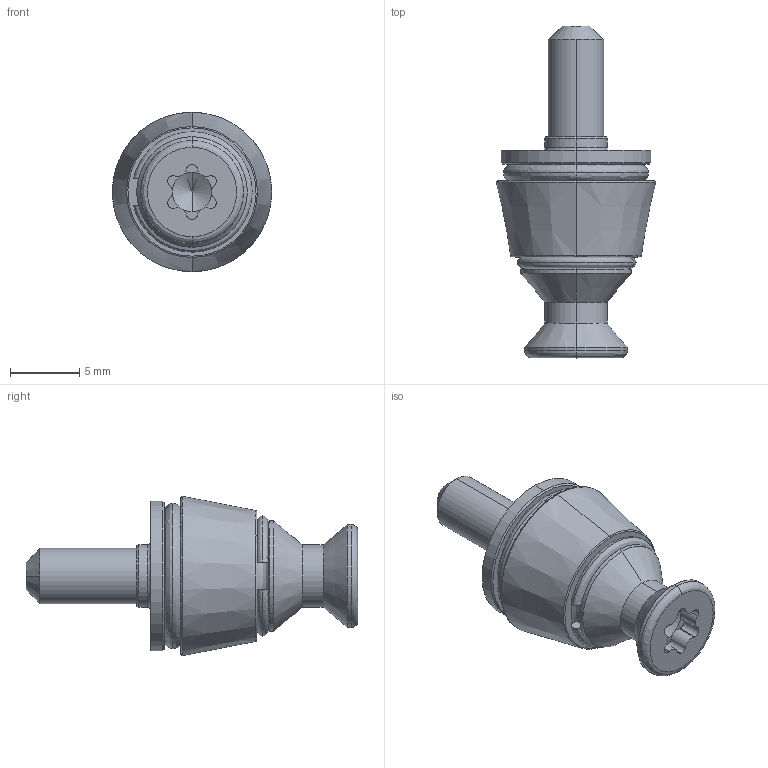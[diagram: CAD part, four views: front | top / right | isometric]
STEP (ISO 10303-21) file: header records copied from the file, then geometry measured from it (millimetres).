
FILE_DESCRIPTION (( 'STEP AP203' ), '1' );
FILE_NAME ('QS022-EC-M4.STEP', '2017-06-07T07:47:50', ( '' ), ( '' ), 'SwSTEP 2.0', 'SolidWorks 2017', '' );
FILE_SCHEMA (( 'CONFIG_CONTROL_DESIGN' ));
Length unit declared in the file: millimetre
Products named in the file (1): QS022-EC-M4
Bounding box: 11.53 x 24 x 11.53 mm (x, y, z)
Volume: 1000 mm3; surface area: 1478.4 mm2
Topology: 5 solids, 5 shells, 99 faces, 223 edges, 131 vertices
Faces by surface type: cylinder 35, bspline 22, plane 22, cone 20
Entity records: 3212 total; most frequent: CARTESIAN_POINT 982, DIRECTION 485, ORIENTED_EDGE 434, EDGE_CURVE 217, AXIS2_PLACEMENT_3D 206, VERTEX_POINT 131, CIRCLE 128, EDGE_LOOP 106
